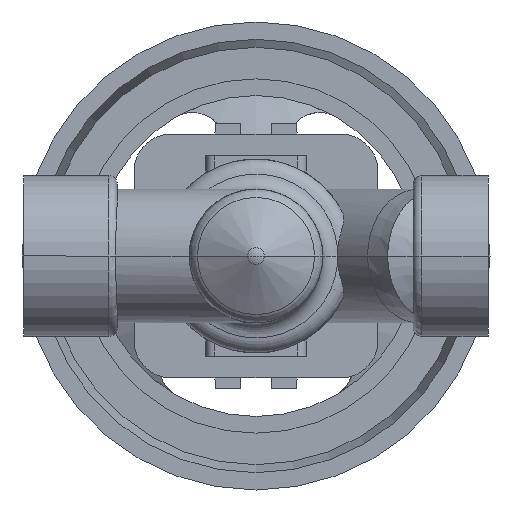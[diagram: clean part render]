
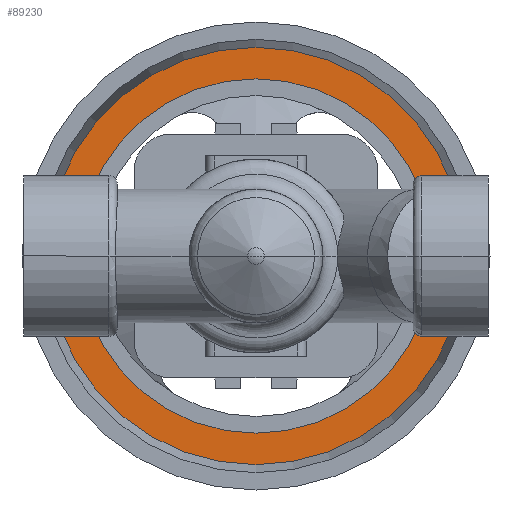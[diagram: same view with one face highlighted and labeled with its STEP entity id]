
A CAD part, front view. The second image highlights one B-rep face of the part: STEP entity #89230.
In plain terms, the highlighted planar face has unit normal (0, -1, 0).
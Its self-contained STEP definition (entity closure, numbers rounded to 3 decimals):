
#88680=CARTESIAN_POINT('',(7.088,241.3,0.));
#88690=VERTEX_POINT('',#88680);
#88770=CARTESIAN_POINT('',(131.912,241.3,0.))
;
#88780=VERTEX_POINT('',#88770);
#88810=CARTESIAN_POINT('',(69.5,241.3,0.));
#88820=DIRECTION('',(0.,1.,0.));
#88830=DIRECTION('',(-1.,0.,0.));
#88840=AXIS2_PLACEMENT_3D('',#88810,#88820,#88830);
#88850=CIRCLE('',#88840,62.412);
#88860=EDGE_CURVE('',#88690,#88780,#88850,.T.);
#88980=CARTESIAN_POINT('',(11.794,241.3,0.))
;
#88990=DIRECTION('',(0.,-1.,0.));
#89000=DIRECTION('',(1.,0.,0.));
#89010=AXIS2_PLACEMENT_3D('',#88980,#88990,#89000);
#89020=PLANE('',#89010);
#89030=EDGE_CURVE('',#88780,#88690,#88850,.T.);
#89040=ORIENTED_EDGE('',*,*,#89030,.F.);
#89050=ORIENTED_EDGE('',*,*,#88860,.F.);
#89060=EDGE_LOOP('',(#89050,#89040));
#89070=FACE_OUTER_BOUND('',#89060,.T.);
#89080=CARTESIAN_POINT('',(69.5,241.3,0.));
#89090=DIRECTION('',(0.,1.,0.));
#89100=DIRECTION('',(-1.,0.,0.));
#89110=AXIS2_PLACEMENT_3D('',#89080,#89090,#89100);
#89120=CIRCLE('',#89110,53.);
#89130=CARTESIAN_POINT('',(16.5,241.3,0.));
#89140=VERTEX_POINT('',#89130);
#89150=CARTESIAN_POINT('',(122.5,241.3,0.));
#89160=VERTEX_POINT('',#89150);
#89170=EDGE_CURVE('',#89140,#89160,#89120,.T.);
#89180=ORIENTED_EDGE('',*,*,#89170,.T.);
#89190=EDGE_CURVE('',#89160,#89140,#89120,.T.);
#89200=ORIENTED_EDGE('',*,*,#89190,.T.);
#89210=EDGE_LOOP('',(#89200,#89180));
#89220=FACE_BOUND('',#89210,.T.);
#89230=ADVANCED_FACE('',(#89070,#89220),#89020,.T.);
